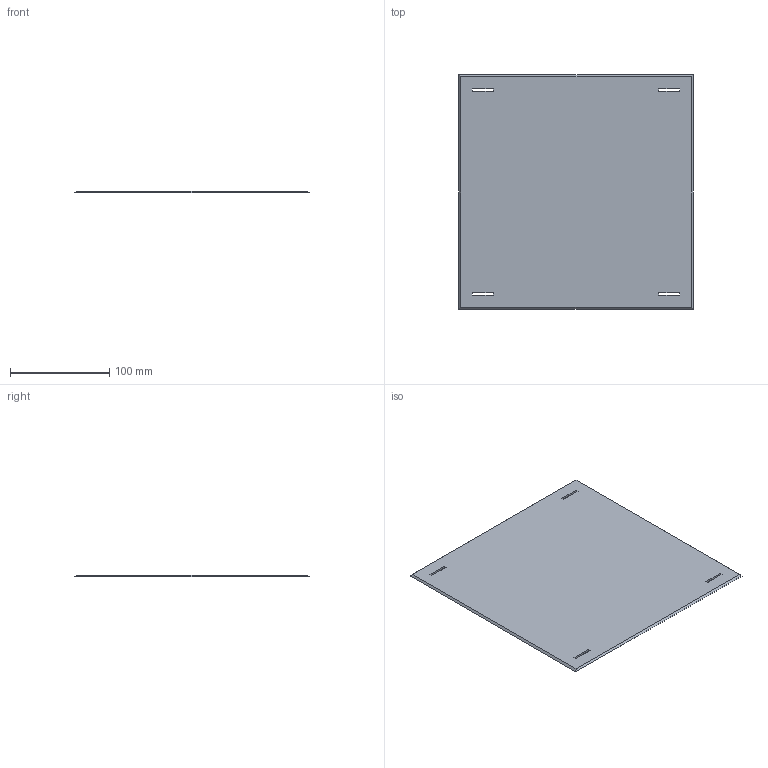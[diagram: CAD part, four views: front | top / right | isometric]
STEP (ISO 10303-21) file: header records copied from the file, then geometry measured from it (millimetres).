
FILE_DESCRIPTION (( 'STEP AP214' ), '1' );
FILE_NAME ('SC66.STEP', '2016-02-27T08:05:48', ( '' ), ( '' ), 'SwSTEP 2.0', 'SolidWorks 2012', '' );
FILE_SCHEMA (( 'AUTOMOTIVE_DESIGN' ));
Length unit declared in the file: millimetre
Products named in the file (1): SC66
Bounding box: 237 x 237 x 2 mm (x, y, z)
Volume: 110049.5 mm3; surface area: 113087.9 mm2
Topology: 1 solids, 1 shells, 22 faces, 60 edges, 40 vertices
Faces by surface type: plane 22
Entity records: 734 total; most frequent: CARTESIAN_POINT 123, ORIENTED_EDGE 120, DIRECTION 106, EDGE_CURVE 60, VECTOR 60, LINE 60, VERTEX_POINT 40, EDGE_LOOP 30
